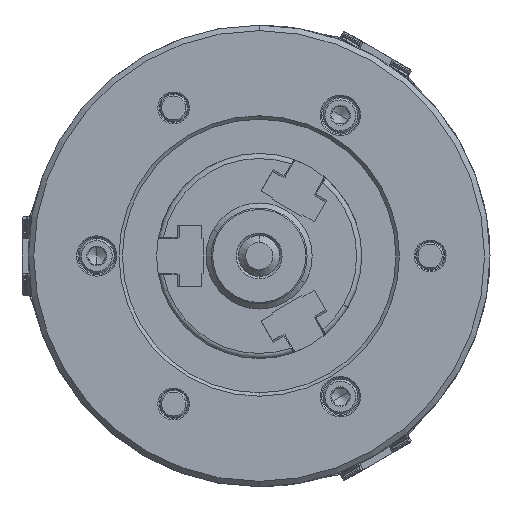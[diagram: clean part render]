
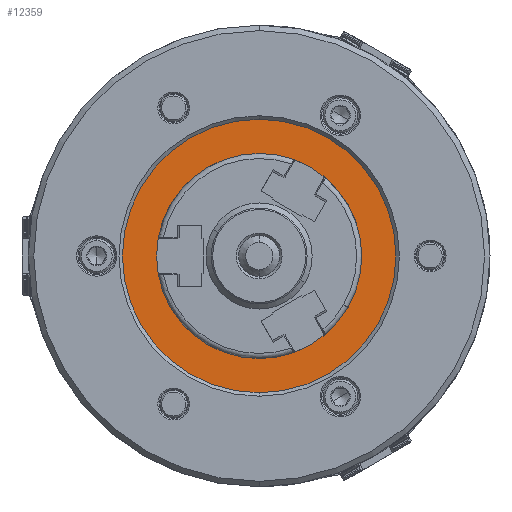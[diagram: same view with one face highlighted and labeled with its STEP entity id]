
A CAD part, left-side view. The second image highlights one B-rep face of the part: STEP entity #12359.
In plain terms, the highlighted planar face has unit normal (-1, 0, 0).
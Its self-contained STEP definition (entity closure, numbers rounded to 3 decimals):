
#1450 = VERTEX_POINT ( 'NONE', #78376 ) ;
#3883 = AXIS2_PLACEMENT_3D ( 'NONE', #81451, #75052, #60878 ) ;
#6286 = PLANE ( 'NONE',  #58097 ) ;
#6526 = CARTESIAN_POINT ( 'NONE',  ( -48., 0., 30. ) ) ;
#8219 = CARTESIAN_POINT ( 'NONE',  ( -48., 0., 0. ) ) ;
#9596 = ORIENTED_EDGE ( 'NONE', *, *, #15087, .T. ) ;
#12359 = ADVANCED_FACE ( 'NONE', ( #68885, #60235 ), #6286, .F. ) ;
#14561 = DIRECTION ( 'NONE',  ( 0., 0., -1. ) ) ;
#15087 = EDGE_CURVE ( 'NONE', #56171, #67596, #54315, .T. ) ;
#17546 = ORIENTED_EDGE ( 'NONE', *, *, #45394, .F. ) ;
#17741 = AXIS2_PLACEMENT_3D ( 'NONE', #81461, #25674, #14561 ) ;
#20041 = CARTESIAN_POINT ( 'NONE',  ( -48., 0., -30. ) ) ;
#25225 = DIRECTION ( 'NONE',  ( 0., 0., -1. ) ) ;
#25674 = DIRECTION ( 'NONE',  ( 1., 0., 0. ) ) ;
#31345 = AXIS2_PLACEMENT_3D ( 'NONE', #45824, #38069, #25225 ) ;
#32334 = DIRECTION ( 'NONE',  ( 1., 0., 0. ) ) ;
#35646 = DIRECTION ( 'NONE',  ( 1., 0., 0. ) ) ;
#38069 = DIRECTION ( 'NONE',  ( 1., 0., 0. ) ) ;
#44897 = ORIENTED_EDGE ( 'NONE', *, *, #72585, .T. ) ;
#45394 = EDGE_CURVE ( 'NONE', #1450, #46845, #90040, .T. ) ;
#45824 = CARTESIAN_POINT ( 'NONE',  ( -48., 0., 0. ) ) ;
#46845 = VERTEX_POINT ( 'NONE', #76849 ) ;
#52949 = DIRECTION ( 'NONE',  ( 0., 0., -1. ) ) ;
#54315 = CIRCLE ( 'NONE', #17741, 30. ) ;
#56171 = VERTEX_POINT ( 'NONE', #20041 ) ;
#58097 = AXIS2_PLACEMENT_3D ( 'NONE', #68418, #32334, #52949 ) ;
#60235 = FACE_BOUND ( 'NONE', #88860, .T. ) ;
#60878 = DIRECTION ( 'NONE',  ( 0., 0., -1. ) ) ;
#66372 = CIRCLE ( 'NONE', #83889, 40. ) ;
#67596 = VERTEX_POINT ( 'NONE', #6526 ) ;
#68418 = CARTESIAN_POINT ( 'NONE',  ( -48., -40., 0. ) ) ;
#68885 = FACE_OUTER_BOUND ( 'NONE', #89429, .T. ) ;
#71693 = ORIENTED_EDGE ( 'NONE', *, *, #82303, .F. ) ;
#72585 = EDGE_CURVE ( 'NONE', #67596, #56171, #75139, .T. ) ;
#75052 = DIRECTION ( 'NONE',  ( 1., 0., 0. ) ) ;
#75139 = CIRCLE ( 'NONE', #31345, 30. ) ;
#76849 = CARTESIAN_POINT ( 'NONE',  ( -48., 0., 40. ) ) ;
#77245 = DIRECTION ( 'NONE',  ( 0., 0., -1. ) ) ;
#78376 = CARTESIAN_POINT ( 'NONE',  ( -48., 0., -40. ) ) ;
#81451 = CARTESIAN_POINT ( 'NONE',  ( -48., 0., 0. ) ) ;
#81461 = CARTESIAN_POINT ( 'NONE',  ( -48., 0., 0. ) ) ;
#82303 = EDGE_CURVE ( 'NONE', #46845, #1450, #66372, .T. ) ;
#83889 = AXIS2_PLACEMENT_3D ( 'NONE', #8219, #35646, #77245 ) ;
#88860 = EDGE_LOOP ( 'NONE', ( #9596, #44897 ) ) ;
#89429 = EDGE_LOOP ( 'NONE', ( #17546, #71693 ) ) ;
#90040 = CIRCLE ( 'NONE', #3883, 40. ) ;
